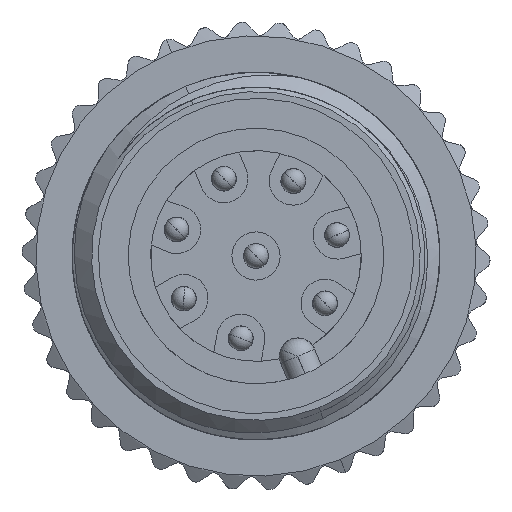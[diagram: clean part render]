
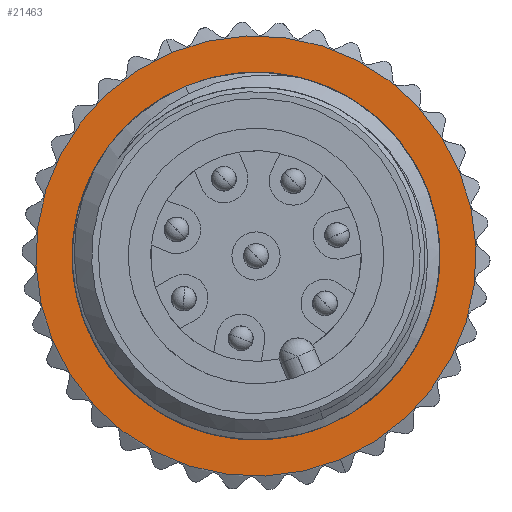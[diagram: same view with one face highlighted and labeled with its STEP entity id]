
A CAD part, left-side view. The second image highlights one B-rep face of the part: STEP entity #21463.
In plain terms, the highlighted planar face has unit normal (-1, 0, 0).
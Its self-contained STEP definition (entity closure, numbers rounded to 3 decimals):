
#70 = EDGE_LOOP ( 'NONE', ( #4809, #87 ) ) ;
#87 = ORIENTED_EDGE ( 'NONE', *, *, #6700, .T. ) ;
#912 = AXIS2_PLACEMENT_3D ( 'NONE', #15107, #3533, #8341 ) ;
#1892 = EDGE_CURVE ( 'NONE', #5590, #14998, #15223, .T. ) ;
#2690 = CARTESIAN_POINT ( 'NONE',  ( 11.044, -2.2, -5.307 ) ) ;
#3533 = DIRECTION ( 'NONE',  ( -1., 0., 0. ) ) ;
#3627 = ORIENTED_EDGE ( 'NONE', *, *, #1892, .F. ) ;
#4023 = EDGE_CURVE ( 'NONE', #14998, #5590, #9387, .T. ) ;
#4809 = ORIENTED_EDGE ( 'NONE', *, *, #17190, .T. ) ;
#5391 = CARTESIAN_POINT ( 'NONE',  ( 11.044, 0., 0. ) ) ;
#5590 = VERTEX_POINT ( 'NONE', #2690 ) ;
#5853 = EDGE_LOOP ( 'NONE', ( #3627, #15965 ) ) ;
#5994 = CARTESIAN_POINT ( 'NONE',  ( 11.044, 0., 0. ) ) ;
#6700 = EDGE_CURVE ( 'NONE', #12464, #14100, #15337, .T. ) ;
#7705 = DIRECTION ( 'NONE',  ( 0., 0.383, 0.924 ) ) ;
#8341 = DIRECTION ( 'NONE',  ( 0., -0.383, -0.924 ) ) ;
#8731 = PLANE ( 'NONE',  #13759 ) ;
#8779 = DIRECTION ( 'NONE',  ( -1., 0., 0. ) ) ;
#9010 = CIRCLE ( 'NONE', #21230, 7.17 ) ;
#9387 = CIRCLE ( 'NONE', #15844, 5.745 ) ;
#9792 = DIRECTION ( 'NONE',  ( -1., 0., 0. ) ) ;
#10581 = FACE_OUTER_BOUND ( 'NONE', #70, .T. ) ;
#11810 = CARTESIAN_POINT ( 'NONE',  ( 11.044, -2.746, -6.624 ) ) ;
#12430 = CARTESIAN_POINT ( 'NONE',  ( 11.044, -5.307, 2.2 ) ) ;
#12464 = VERTEX_POINT ( 'NONE', #11810 ) ;
#13472 = CARTESIAN_POINT ( 'NONE',  ( 11.044, 2.746, 6.624 ) ) ;
#13759 = AXIS2_PLACEMENT_3D ( 'NONE', #12430, #17552, #7705 ) ;
#13795 = AXIS2_PLACEMENT_3D ( 'NONE', #18102, #9792, #19786 ) ;
#14100 = VERTEX_POINT ( 'NONE', #13472 ) ;
#14250 = DIRECTION ( 'NONE',  ( 0., -0.383, -0.924 ) ) ;
#14998 = VERTEX_POINT ( 'NONE', #20229 ) ;
#15107 = CARTESIAN_POINT ( 'NONE',  ( 11.044, 0., 0. ) ) ;
#15223 = CIRCLE ( 'NONE', #912, 5.745 ) ;
#15337 = CIRCLE ( 'NONE', #13795, 7.17 ) ;
#15844 = AXIS2_PLACEMENT_3D ( 'NONE', #5994, #19379, #14250 ) ;
#15965 = ORIENTED_EDGE ( 'NONE', *, *, #4023, .F. ) ;
#17190 = EDGE_CURVE ( 'NONE', #14100, #12464, #9010, .T. ) ;
#17552 = DIRECTION ( 'NONE',  ( 1., 0., 0. ) ) ;
#18102 = CARTESIAN_POINT ( 'NONE',  ( 11.044, 0., 0. ) ) ;
#19379 = DIRECTION ( 'NONE',  ( -1., 0., 0. ) ) ;
#19786 = DIRECTION ( 'NONE',  ( 0., -0.383, -0.924 ) ) ;
#20229 = CARTESIAN_POINT ( 'NONE',  ( 11.044, 2.2, 5.307 ) ) ;
#20381 = DIRECTION ( 'NONE',  ( 0., -0.383, -0.924 ) ) ;
#21230 = AXIS2_PLACEMENT_3D ( 'NONE', #5391, #8779, #20381 ) ;
#21282 = FACE_BOUND ( 'NONE', #5853, .T. ) ;
#21463 = ADVANCED_FACE ( 'NONE', ( #21282, #10581 ), #8731, .F. ) ;
